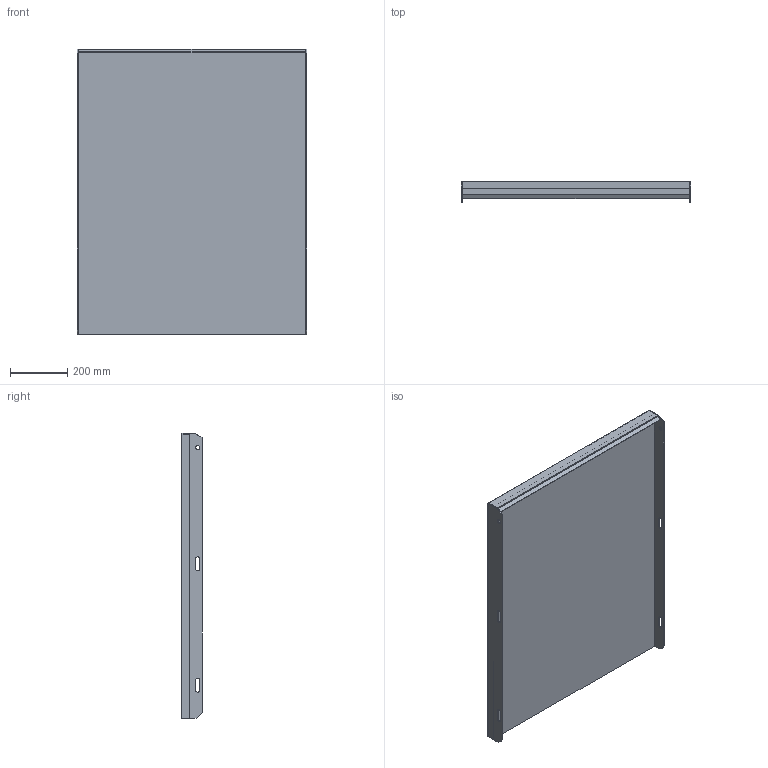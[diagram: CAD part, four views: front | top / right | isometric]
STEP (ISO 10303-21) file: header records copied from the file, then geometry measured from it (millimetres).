
FILE_DESCRIPTION (( 'STEP AP203' ), '1' );
FILE_NAME ('148808101, Plan TH6, 800x1000, vfz.STEP', '2020-10-21T13:33:01', ( '' ), ( '' ), 'SwSTEP 2.0', 'SolidWorks 2019', '' );
FILE_SCHEMA (( 'CONFIG_CONTROL_DESIGN' ));
Length unit declared in the file: millimetre
Products named in the file (4): 148808101, Plan TH6, 800x1000, vfz; SW0000041480; SW0000041832; SW0000041407
Assembly tree (4 placements, depth 2):
  148808101, Plan TH6, 800x1000, vfz
    SW0000041832
    SW0000041407  x2
    SW0000041480
Bounding box: 800 x 70 x 997 mm (x, y, z)
Volume: 20279555.1 mm3; surface area: 2054798.3 mm2
Topology: 4 solids, 4 shells, 69 faces, 172 edges, 112 vertices
Faces by surface type: plane 49, cylinder 20
Entity records: 1868 total; most frequent: DIRECTION 252, CARTESIAN_POINT 250, ORIENTED_EDGE 236, EDGE_CURVE 118, LINE 96, VECTOR 96, AXIS2_PLACEMENT_3D 78, VERTEX_POINT 76
